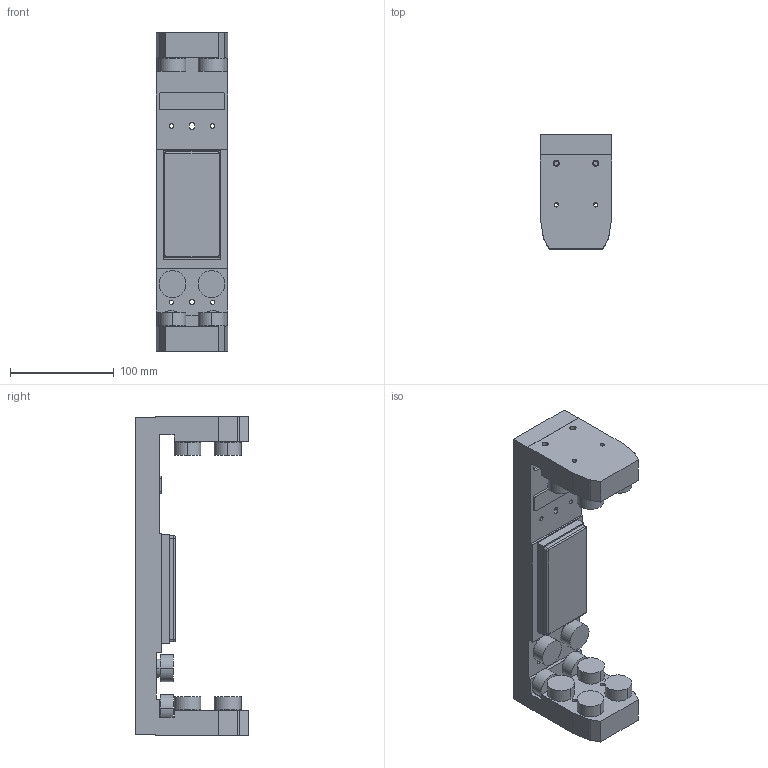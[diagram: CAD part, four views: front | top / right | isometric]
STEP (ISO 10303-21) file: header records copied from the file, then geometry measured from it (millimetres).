
FILE_DESCRIPTION((''),'2;1');
FILE_NAME('W0001033989','2024-08-20T15:46:18',('RRajan1'),('Rockwell Automation'),'CREO PARAMETRIC BY PTC INC, 2020281','CREO PARAMETRIC BY PTC INC, 2020281','');
FILE_SCHEMA(('CONFIG_CONTROL_DESIGN'));
Length unit declared in the file: millimetre
Products named in the file (1): W0001033989
Bounding box: 69 x 109.97 x 307.6 mm (x, y, z)
Volume: 924028.7 mm3; surface area: 122682.3 mm2
Topology: 1 solids, 1 shells, 203 faces, 500 edges, 328 vertices
Faces by surface type: cylinder 106, plane 93, bspline 4
Entity records: 6236 total; most frequent: CARTESIAN_POINT 1135, DIRECTION 1110, ORIENTED_EDGE 1000, EDGE_CURVE 500, AXIS2_PLACEMENT_3D 415, VERTEX_POINT 328, VECTOR 280, LINE 280
